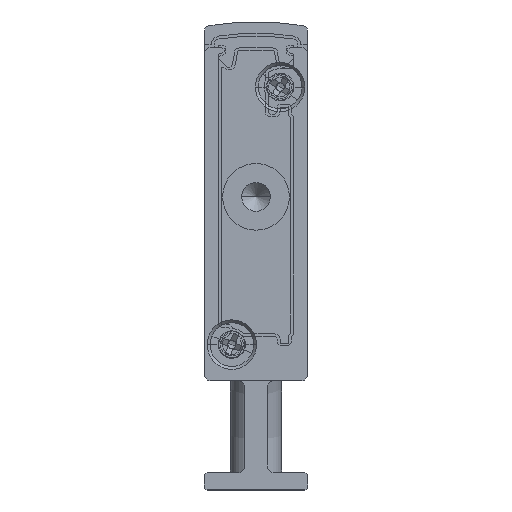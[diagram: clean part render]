
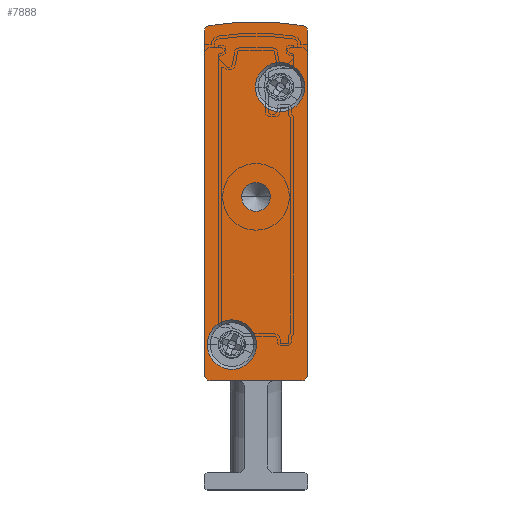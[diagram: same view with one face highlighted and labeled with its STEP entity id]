
A CAD part, front view. The second image highlights one B-rep face of the part: STEP entity #7888.
In plain terms, the highlighted planar face has unit normal (0, -1, 0).
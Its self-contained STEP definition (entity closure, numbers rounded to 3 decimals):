
#39 = DIRECTION ( 'NONE',  ( -1., 0., 0. ) ) ;
#61 = VERTEX_POINT ( 'NONE', #12353 ) ;
#65 = EDGE_LOOP ( 'NONE', ( #9568, #18009 ) ) ;
#326 = LINE ( 'NONE', #9650, #10060 ) ;
#443 = CARTESIAN_POINT ( 'NONE',  ( 0.5, -2.5, 10. ) ) ;
#502 = AXIS2_PLACEMENT_3D ( 'NONE', #9976, #9782, #865 ) ;
#531 = DIRECTION ( 'NONE',  ( -1., 0., 0. ) ) ;
#625 = AXIS2_PLACEMENT_3D ( 'NONE', #12640, #9641, #531 ) ;
#806 = CARTESIAN_POINT ( 'NONE',  ( 0., -2.5, 39.902 ) ) ;
#859 = VERTEX_POINT ( 'NONE', #16328 ) ;
#865 = DIRECTION ( 'NONE',  ( -1., 0., 0. ) ) ;
#1090 = VERTEX_POINT ( 'NONE', #18410 ) ;
#1170 = DIRECTION ( 'NONE',  ( 1., 0., 0. ) ) ;
#1251 = CARTESIAN_POINT ( 'NONE',  ( 0.5, -2.5, 9.5 ) ) ;
#1339 = DIRECTION ( 'NONE',  ( 0., 1., 0. ) ) ;
#1396 = VECTOR ( 'NONE', #10416, 1000. ) ;
#1403 = LINE ( 'NONE', #3020, #13742 ) ;
#1535 = CIRCLE ( 'NONE', #2996, 2.15 ) ;
#1584 = AXIS2_PLACEMENT_3D ( 'NONE', #18379, #13664, #7705 ) ;
#1683 = DIRECTION ( 'NONE',  ( -1., 0., 0. ) ) ;
#2221 = EDGE_CURVE ( 'NONE', #4581, #859, #14235, .T. ) ;
#2593 = ORIENTED_EDGE ( 'NONE', *, *, #2221, .F. ) ;
#2816 = EDGE_LOOP ( 'NONE', ( #2880, #11503 ) ) ;
#2824 = AXIS2_PLACEMENT_3D ( 'NONE', #12399, #15366, #1683 ) ;
#2880 = ORIENTED_EDGE ( 'NONE', *, *, #7259, .F. ) ;
#2936 = CIRCLE ( 'NONE', #7276, 0.5 ) ;
#2996 = AXIS2_PLACEMENT_3D ( 'NONE', #12564, #6592, #8116 ) ;
#3020 = CARTESIAN_POINT ( 'NONE',  ( 0.5, -2.5, 9.5 ) ) ;
#3197 = DIRECTION ( 'NONE',  ( 0., 1., 0. ) ) ;
#3212 = CIRCLE ( 'NONE', #10007, 23.658 ) ;
#3636 = FACE_BOUND ( 'NONE', #2816, .T. ) ;
#3901 = CIRCLE ( 'NONE', #625, 1.25 ) ;
#4026 = CIRCLE ( 'NONE', #7437, 2.15 ) ;
#4512 = CARTESIAN_POINT ( 'NONE',  ( 2.4, -2.5, 12.65 ) ) ;
#4581 = VERTEX_POINT ( 'NONE', #17285 ) ;
#4788 = CIRCLE ( 'NONE', #16933, 0.5 ) ;
#4879 = CARTESIAN_POINT ( 'NONE',  ( 0.408, -2.5, 40.393 ) ) ;
#5128 = EDGE_CURVE ( 'NONE', #19420, #16170, #4788, .T. ) ;
#5233 = VERTEX_POINT ( 'NONE', #11922 ) ;
#5557 = EDGE_LOOP ( 'NONE', ( #12994, #13027, #5877, #14830, #7809, #18548, #5896, #8896 ) ) ;
#5877 = ORIENTED_EDGE ( 'NONE', *, *, #17805, .F. ) ;
#5896 = ORIENTED_EDGE ( 'NONE', *, *, #5128, .F. ) ;
#6337 = VERTEX_POINT ( 'NONE', #6698 ) ;
#6456 = EDGE_CURVE ( 'NONE', #61, #6337, #3901, .T. ) ;
#6592 = DIRECTION ( 'NONE',  ( 0., -1., 0. ) ) ;
#6698 = CARTESIAN_POINT ( 'NONE',  ( 3.25, -2.5, 25.5 ) ) ;
#6825 = CIRCLE ( 'NONE', #502, 0.5 ) ;
#7077 = DIRECTION ( 'NONE',  ( -1., 0., 0. ) ) ;
#7259 = EDGE_CURVE ( 'NONE', #1090, #19194, #7895, .T. ) ;
#7276 = AXIS2_PLACEMENT_3D ( 'NONE', #443, #9671, #11186 ) ;
#7437 = AXIS2_PLACEMENT_3D ( 'NONE', #4512, #11894, #15067 ) ;
#7630 = CARTESIAN_POINT ( 'NONE',  ( 4.5, -2.5, 25.5 ) ) ;
#7695 = CIRCLE ( 'NONE', #13073, 1.25 ) ;
#7705 = DIRECTION ( 'NONE',  ( -1., 0., 0. ) ) ;
#7764 = ORIENTED_EDGE ( 'NONE', *, *, #18688, .F. ) ;
#7809 = ORIENTED_EDGE ( 'NONE', *, *, #10637, .F. ) ;
#7888 = ADVANCED_FACE ( 'NONE', ( #3636, #17844, #19525, #14496 ), #18514, .F. ) ;
#7895 = CIRCLE ( 'NONE', #14221, 2.15 ) ;
#8116 = DIRECTION ( 'NONE',  ( 1., 0., 0. ) ) ;
#8781 = CARTESIAN_POINT ( 'NONE',  ( 0., -2.5, 39.902 ) ) ;
#8896 = ORIENTED_EDGE ( 'NONE', *, *, #10866, .F. ) ;
#8900 = DIRECTION ( 'NONE',  ( -1., 0., 0. ) ) ;
#9000 = CARTESIAN_POINT ( 'NONE',  ( 4.45, -2.5, 35.05 ) ) ;
#9513 = LINE ( 'NONE', #8781, #1396 ) ;
#9568 = ORIENTED_EDGE ( 'NONE', *, *, #13765, .T. ) ;
#9641 = DIRECTION ( 'NONE',  ( 0., 1., 0. ) ) ;
#9650 = CARTESIAN_POINT ( 'NONE',  ( 9., -2.5, 39.902 ) ) ;
#9671 = DIRECTION ( 'NONE',  ( 0., 1., 0. ) ) ;
#9782 = DIRECTION ( 'NONE',  ( 0., 1., 0. ) ) ;
#9976 = CARTESIAN_POINT ( 'NONE',  ( 0.5, -2.5, 39.902 ) ) ;
#10007 = AXIS2_PLACEMENT_3D ( 'NONE', #13464, #1339, #15051 ) ;
#10060 = VECTOR ( 'NONE', #12782, 1000. ) ;
#10416 = DIRECTION ( 'NONE',  ( 0., 0., 1. ) ) ;
#10637 = EDGE_CURVE ( 'NONE', #13262, #5233, #19401, .T. ) ;
#10866 = EDGE_CURVE ( 'NONE', #16567, #19420, #3212, .T. ) ;
#11186 = DIRECTION ( 'NONE',  ( -1., 0., 0. ) ) ;
#11503 = ORIENTED_EDGE ( 'NONE', *, *, #15772, .F. ) ;
#11715 = EDGE_CURVE ( 'NONE', #11749, #16567, #6825, .T. ) ;
#11749 = VERTEX_POINT ( 'NONE', #806 ) ;
#11894 = DIRECTION ( 'NONE',  ( 0., -1., 0. ) ) ;
#11922 = CARTESIAN_POINT ( 'NONE',  ( 8.5, -2.5, 9.5 ) ) ;
#12184 = VERTEX_POINT ( 'NONE', #17128 ) ;
#12353 = CARTESIAN_POINT ( 'NONE',  ( 5.75, -2.5, 25.5 ) ) ;
#12399 = CARTESIAN_POINT ( 'NONE',  ( 0.5, -2.5, 39.902 ) ) ;
#12564 = CARTESIAN_POINT ( 'NONE',  ( 6.6, -2.5, 35.05 ) ) ;
#12610 = AXIS2_PLACEMENT_3D ( 'NONE', #16310, #19345, #1170 ) ;
#12640 = CARTESIAN_POINT ( 'NONE',  ( 4.5, -2.5, 25.5 ) ) ;
#12782 = DIRECTION ( 'NONE',  ( 0., 0., -1. ) ) ;
#12796 = DIRECTION ( 'NONE',  ( 1., 0., 0. ) ) ;
#12994 = ORIENTED_EDGE ( 'NONE', *, *, #11715, .F. ) ;
#12997 = DIRECTION ( 'NONE',  ( 0., 1., 0. ) ) ;
#13027 = ORIENTED_EDGE ( 'NONE', *, *, #13238, .F. ) ;
#13073 = AXIS2_PLACEMENT_3D ( 'NONE', #7630, #3197, #39 ) ;
#13238 = EDGE_CURVE ( 'NONE', #12184, #11749, #9513, .T. ) ;
#13262 = VERTEX_POINT ( 'NONE', #19551 ) ;
#13464 = CARTESIAN_POINT ( 'NONE',  ( 4.5, -2.5, 17.092 ) ) ;
#13664 = DIRECTION ( 'NONE',  ( 0., 1., 0. ) ) ;
#13742 = VECTOR ( 'NONE', #8900, 1000. ) ;
#13765 = EDGE_CURVE ( 'NONE', #6337, #61, #7695, .T. ) ;
#14221 = AXIS2_PLACEMENT_3D ( 'NONE', #14377, #15744, #12796 ) ;
#14235 = CIRCLE ( 'NONE', #12610, 2.15 ) ;
#14368 = EDGE_LOOP ( 'NONE', ( #7764, #2593 ) ) ;
#14377 = CARTESIAN_POINT ( 'NONE',  ( 6.6, -2.5, 35.05 ) ) ;
#14496 = FACE_BOUND ( 'NONE', #65, .T. ) ;
#14830 = ORIENTED_EDGE ( 'NONE', *, *, #18663, .F. ) ;
#15051 = DIRECTION ( 'NONE',  ( -1., 0., 0. ) ) ;
#15067 = DIRECTION ( 'NONE',  ( 1., 0., 0. ) ) ;
#15366 = DIRECTION ( 'NONE',  ( 0., 1., 0. ) ) ;
#15744 = DIRECTION ( 'NONE',  ( 0., -1., 0. ) ) ;
#15772 = EDGE_CURVE ( 'NONE', #19194, #1090, #1535, .T. ) ;
#16170 = VERTEX_POINT ( 'NONE', #17217 ) ;
#16200 = EDGE_CURVE ( 'NONE', #16170, #13262, #326, .T. ) ;
#16310 = CARTESIAN_POINT ( 'NONE',  ( 2.4, -2.5, 12.65 ) ) ;
#16328 = CARTESIAN_POINT ( 'NONE',  ( 4.55, -2.5, 12.65 ) ) ;
#16367 = VERTEX_POINT ( 'NONE', #1251 ) ;
#16567 = VERTEX_POINT ( 'NONE', #4879 ) ;
#16933 = AXIS2_PLACEMENT_3D ( 'NONE', #19038, #12997, #7077 ) ;
#16949 = CARTESIAN_POINT ( 'NONE',  ( 8.592, -2.5, 40.393 ) ) ;
#17128 = CARTESIAN_POINT ( 'NONE',  ( 0., -2.5, 10. ) ) ;
#17217 = CARTESIAN_POINT ( 'NONE',  ( 9., -2.5, 39.902 ) ) ;
#17285 = CARTESIAN_POINT ( 'NONE',  ( 0.25, -2.5, 12.65 ) ) ;
#17805 = EDGE_CURVE ( 'NONE', #16367, #12184, #2936, .T. ) ;
#17844 = FACE_BOUND ( 'NONE', #14368, .T. ) ;
#18009 = ORIENTED_EDGE ( 'NONE', *, *, #6456, .T. ) ;
#18379 = CARTESIAN_POINT ( 'NONE',  ( 8.5, -2.5, 10. ) ) ;
#18410 = CARTESIAN_POINT ( 'NONE',  ( 8.75, -2.5, 35.05 ) ) ;
#18514 = PLANE ( 'NONE',  #2824 ) ;
#18548 = ORIENTED_EDGE ( 'NONE', *, *, #16200, .F. ) ;
#18663 = EDGE_CURVE ( 'NONE', #5233, #16367, #1403, .T. ) ;
#18688 = EDGE_CURVE ( 'NONE', #859, #4581, #4026, .T. ) ;
#19038 = CARTESIAN_POINT ( 'NONE',  ( 8.5, -2.5, 39.902 ) ) ;
#19194 = VERTEX_POINT ( 'NONE', #9000 ) ;
#19345 = DIRECTION ( 'NONE',  ( 0., -1., 0. ) ) ;
#19401 = CIRCLE ( 'NONE', #1584, 0.5 ) ;
#19420 = VERTEX_POINT ( 'NONE', #16949 ) ;
#19525 = FACE_OUTER_BOUND ( 'NONE', #5557, .T. ) ;
#19551 = CARTESIAN_POINT ( 'NONE',  ( 9., -2.5, 10. ) ) ;
